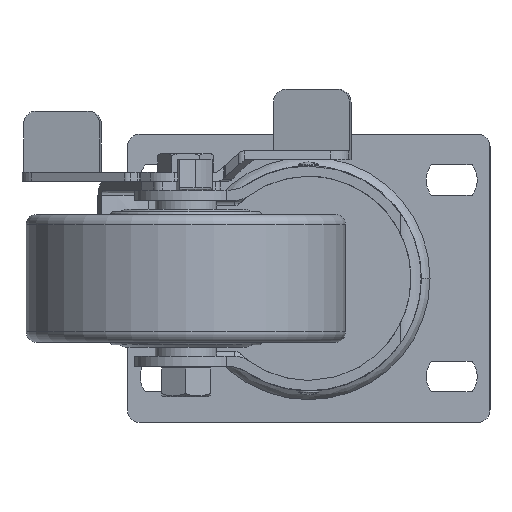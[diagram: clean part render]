
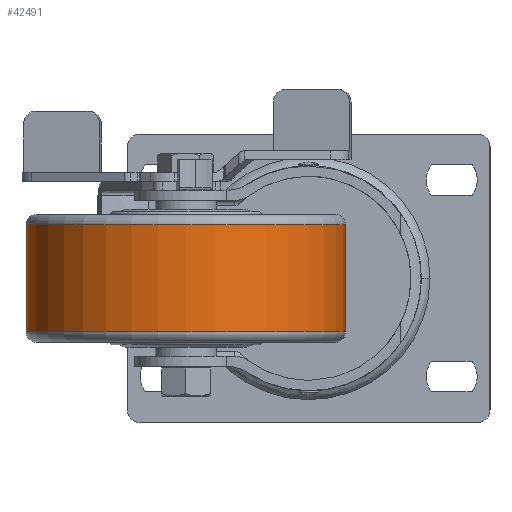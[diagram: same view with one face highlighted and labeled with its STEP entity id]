
A CAD part, front view. The second image highlights one B-rep face of the part: STEP entity #42491.
In plain terms, the highlighted cylindrical face has radius 62.5 mm (diameter 125 mm), a partial arc.
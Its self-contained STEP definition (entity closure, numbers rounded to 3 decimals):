
#161 = DIRECTION ( 'NONE',  ( 1., 0., 0. ) ) ;
#225 = VERTEX_POINT ( 'NONE', #77085 ) ;
#11840 = EDGE_LOOP ( 'NONE', ( #40969, #79756, #73166, #99942 ) ) ;
#22812 = EDGE_CURVE ( 'NONE', #225, #140358, #136954, .T. ) ;
#26288 = CARTESIAN_POINT ( 'NONE',  ( -62.5, 0., 21. ) ) ;
#28323 = CYLINDRICAL_SURFACE ( 'NONE', #41267, 62.5 ) ;
#34727 = DIRECTION ( 'NONE',  ( 0., 0., 1. ) ) ;
#39769 = CARTESIAN_POINT ( 'NONE',  ( -62.5, 0., 26. ) ) ;
#40969 = ORIENTED_EDGE ( 'NONE', *, *, #22812, .F. ) ;
#41267 = AXIS2_PLACEMENT_3D ( 'NONE', #103539, #34727, #82432 ) ;
#42491 = ADVANCED_FACE ( 'NONE', ( #69638 ), #28323, .T. ) ;
#45442 = EDGE_CURVE ( 'NONE', #225, #119693, #148840, .T. ) ;
#51781 = CARTESIAN_POINT ( 'NONE',  ( 62.5, 0., -21. ) ) ;
#55443 = VECTOR ( 'NONE', #148293, 1000. ) ;
#58907 = CARTESIAN_POINT ( 'NONE',  ( 0., 0., -21. ) ) ;
#59399 = DIRECTION ( 'NONE',  ( 0., 0., 1. ) ) ;
#61393 = VECTOR ( 'NONE', #111051, 1000. ) ;
#67923 = DIRECTION ( 'NONE',  ( 0., 0., 1. ) ) ;
#69638 = FACE_OUTER_BOUND ( 'NONE', #11840, .T. ) ;
#73166 = ORIENTED_EDGE ( 'NONE', *, *, #122943, .T. ) ;
#76944 = EDGE_CURVE ( 'NONE', #140358, #98211, #116175, .T. ) ;
#77085 = CARTESIAN_POINT ( 'NONE',  ( -62.5, 0., -21. ) ) ;
#79756 = ORIENTED_EDGE ( 'NONE', *, *, #45442, .T. ) ;
#82432 = DIRECTION ( 'NONE',  ( 1., 0., 0. ) ) ;
#87937 = LINE ( 'NONE', #101571, #55443 ) ;
#93629 = AXIS2_PLACEMENT_3D ( 'NONE', #113663, #67923, #114163 ) ;
#98211 = VERTEX_POINT ( 'NONE', #113402 ) ;
#99942 = ORIENTED_EDGE ( 'NONE', *, *, #76944, .F. ) ;
#101571 = CARTESIAN_POINT ( 'NONE',  ( 62.5, 0., 26. ) ) ;
#103539 = CARTESIAN_POINT ( 'NONE',  ( 0., 0., 26. ) ) ;
#104845 = AXIS2_PLACEMENT_3D ( 'NONE', #58907, #59399, #161 ) ;
#111051 = DIRECTION ( 'NONE',  ( 0., 0., 1. ) ) ;
#113402 = CARTESIAN_POINT ( 'NONE',  ( 62.5, 0., 21. ) ) ;
#113663 = CARTESIAN_POINT ( 'NONE',  ( 0., 0., 21. ) ) ;
#114163 = DIRECTION ( 'NONE',  ( 1., 0., 0. ) ) ;
#116175 = CIRCLE ( 'NONE', #93629, 62.5 ) ;
#119693 = VERTEX_POINT ( 'NONE', #51781 ) ;
#122943 = EDGE_CURVE ( 'NONE', #119693, #98211, #87937, .T. ) ;
#136954 = LINE ( 'NONE', #39769, #61393 ) ;
#140358 = VERTEX_POINT ( 'NONE', #26288 ) ;
#148293 = DIRECTION ( 'NONE',  ( 0., 0., 1. ) ) ;
#148840 = CIRCLE ( 'NONE', #104845, 62.5 ) ;
